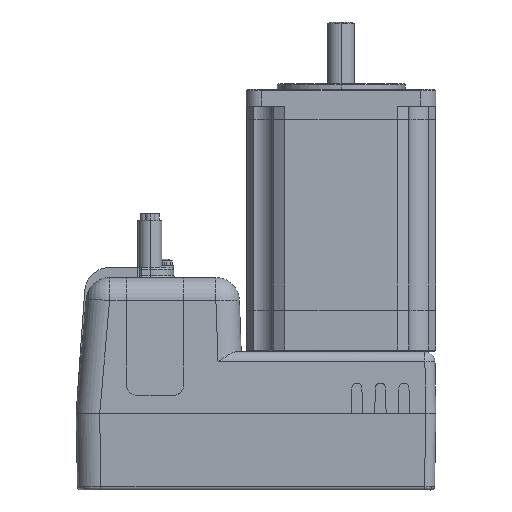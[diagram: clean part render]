
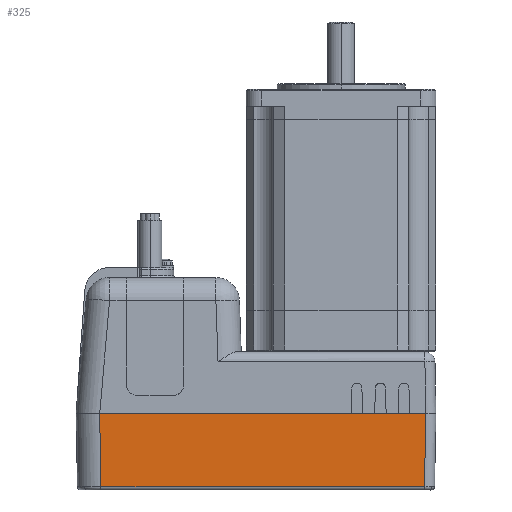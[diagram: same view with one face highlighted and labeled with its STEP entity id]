
A CAD part, left-side view. The second image highlights one B-rep face of the part: STEP entity #325.
In plain terms, the highlighted planar face has unit normal (-1, 0, -0.018).
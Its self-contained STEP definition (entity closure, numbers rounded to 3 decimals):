
#325 = ADVANCED_FACE ( 'NONE', ( #5222 ), #10313, .T. ) ;
#613 = VERTEX_POINT ( 'NONE', #4155 ) ;
#1521 = VECTOR ( 'NONE', #9725, 1000. ) ;
#1723 = EDGE_CURVE ( 'NONE', #14921, #8874, #8992, .T. ) ;
#3125 = ORIENTED_EDGE ( 'NONE', *, *, #8224, .T. ) ;
#4155 = CARTESIAN_POINT ( 'NONE',  ( -33.5, 71.801, -96.4 ) ) ;
#4231 = ORIENTED_EDGE ( 'NONE', *, *, #7696, .F. ) ;
#4556 = ORIENTED_EDGE ( 'NONE', *, *, #16570, .T. ) ;
#4771 = VECTOR ( 'NONE', #16564, 1000. ) ;
#5222 = FACE_OUTER_BOUND ( 'NONE', #10698, .T. ) ;
#5471 = CARTESIAN_POINT ( 'NONE',  ( -33.119, 71.42, -118.217 ) ) ;
#5761 = DIRECTION ( 'NONE',  ( 0.017, -0.017, -1. ) ) ;
#6889 = VERTEX_POINT ( 'NONE', #5471 ) ;
#7477 = CARTESIAN_POINT ( 'NONE',  ( -33.5, -25.2, -96.4 ) ) ;
#7696 = EDGE_CURVE ( 'NONE', #613, #8874, #8407, .T. ) ;
#8024 = AXIS2_PLACEMENT_3D ( 'NONE', #11685, #14454, #11866 ) ;
#8159 = CARTESIAN_POINT ( 'NONE',  ( -33.501, -25.201, -96.348 ) ) ;
#8224 = EDGE_CURVE ( 'NONE', #6889, #14921, #8601, .T. ) ;
#8407 = LINE ( 'NONE', #11031, #1521 ) ;
#8601 = LINE ( 'NONE', #12604, #4771 ) ;
#8874 = VERTEX_POINT ( 'NONE', #7477 ) ;
#8992 = LINE ( 'NONE', #8159, #15555 ) ;
#9309 = LINE ( 'NONE', #16148, #11977 ) ;
#9484 = DIRECTION ( 'NONE',  ( -0.017, -0.017, 1. ) ) ;
#9725 = DIRECTION ( 'NONE',  ( 0., -1., 0. ) ) ;
#10313 = PLANE ( 'NONE',  #8024 ) ;
#10508 = ORIENTED_EDGE ( 'NONE', *, *, #1723, .T. ) ;
#10698 = EDGE_LOOP ( 'NONE', ( #4556, #3125, #10508, #4231 ) ) ;
#10857 = CARTESIAN_POINT ( 'NONE',  ( -33.119, -24.82, -118.217 ) ) ;
#11031 = CARTESIAN_POINT ( 'NONE',  ( -33.5, -28.2, -96.4 ) ) ;
#11685 = CARTESIAN_POINT ( 'NONE',  ( -33.5, -28.2, -96.4 ) ) ;
#11866 = DIRECTION ( 'NONE',  ( -0.017, 0., 1. ) ) ;
#11977 = VECTOR ( 'NONE', #5761, 1000. ) ;
#12604 = CARTESIAN_POINT ( 'NONE',  ( -33.119, -24.802, -118.217 ) ) ;
#14454 = DIRECTION ( 'NONE',  ( -1., 0., -0.017 ) ) ;
#14921 = VERTEX_POINT ( 'NONE', #10857 ) ;
#15555 = VECTOR ( 'NONE', #9484, 1000. ) ;
#16148 = CARTESIAN_POINT ( 'NONE',  ( -33.47, 71.771, -98.144 ) ) ;
#16564 = DIRECTION ( 'NONE',  ( 0., -1., 0. ) ) ;
#16570 = EDGE_CURVE ( 'NONE', #613, #6889, #9309, .T. ) ;
